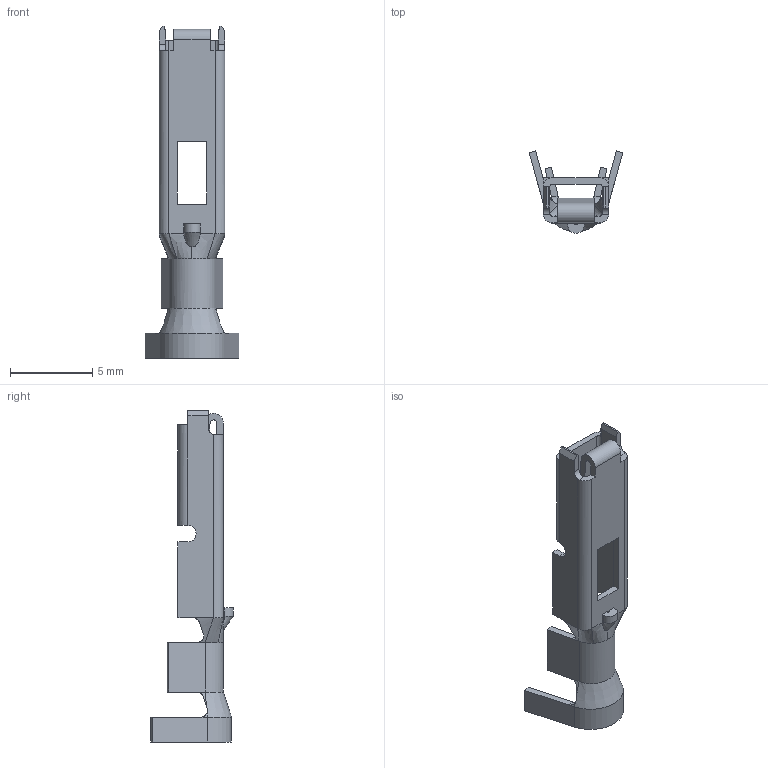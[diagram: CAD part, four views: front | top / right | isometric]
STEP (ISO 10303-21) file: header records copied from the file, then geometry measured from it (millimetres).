
FILE_DESCRIPTION((''),'2;1');
FILE_NAME('C-172773-2','2008-08-26T',('workeradm'),('Tyco Electronics Corporation'),'PRO/ENGINEER BY PARAMETRIC TECHNOLOGY CORPORATION, 2005450','PRO/ENGINEER BY PARAMETRIC TECHNOLOGY CORPORATION, 2005450','');
FILE_SCHEMA(('CONFIG_CONTROL_DESIGN', 'GEOMETRIC_VALIDATION_PROPERTIES_MIM'));
Length unit declared in the file: millimetre
Products named in the file (1): C-172773-2
Bounding box: 5.69 x 5 x 20.13 mm (x, y, z)
Volume: 69.6 mm3; surface area: 389.2 mm2
Topology: 1 solids, 1 shells, 121 faces, 325 edges, 204 vertices
Faces by surface type: plane 66, cylinder 30, bspline 25
Entity records: 4753 total; most frequent: CARTESIAN_POINT 1739, ORIENTED_EDGE 650, DIRECTION 516, EDGE_CURVE 325, VECTOR 224, LINE 224, VERTEX_POINT 204, AXIS2_PLACEMENT_3D 146
